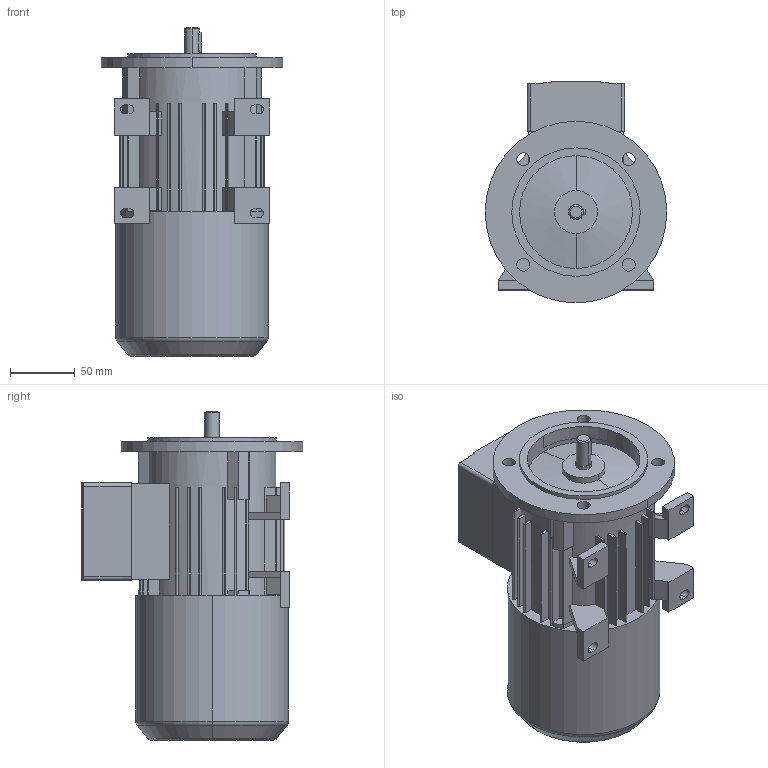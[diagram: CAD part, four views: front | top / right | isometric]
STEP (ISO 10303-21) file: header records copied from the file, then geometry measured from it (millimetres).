
FILE_DESCRIPTION((''),'2;1');
FILE_NAME('1LA7060-2AA16-Z-G26_PRT','2002-04-12T',('martin könig'),(''),'PRO/ENGINEER BY PARAMETRIC TECHNOLOGY CORPORATION, 2002030','PRO/ENGINEER BY PARAMETRIC TECHNOLOGY CORPORATION, 2002030','');
FILE_SCHEMA(('CONFIG_CONTROL_DESIGN'));
Length unit declared in the file: millimetre
Products named in the file (1): 1LA7060-2AA16-Z-G26_PRT
Bounding box: 140 x 171 x 253.5 mm (x, y, z)
Volume: 2491933.5 mm3; surface area: 173647.6 mm2
Topology: 1 solids, 1 shells, 287 faces, 810 edges, 534 vertices
Faces by surface type: plane 193, cylinder 84, cone 6, torus 4
Entity records: 9403 total; most frequent: CARTESIAN_POINT 1662, DIRECTION 1628, ORIENTED_EDGE 1620, EDGE_CURVE 810, VECTOR 562, LINE 562, VERTEX_POINT 534, AXIS2_PLACEMENT_3D 533
